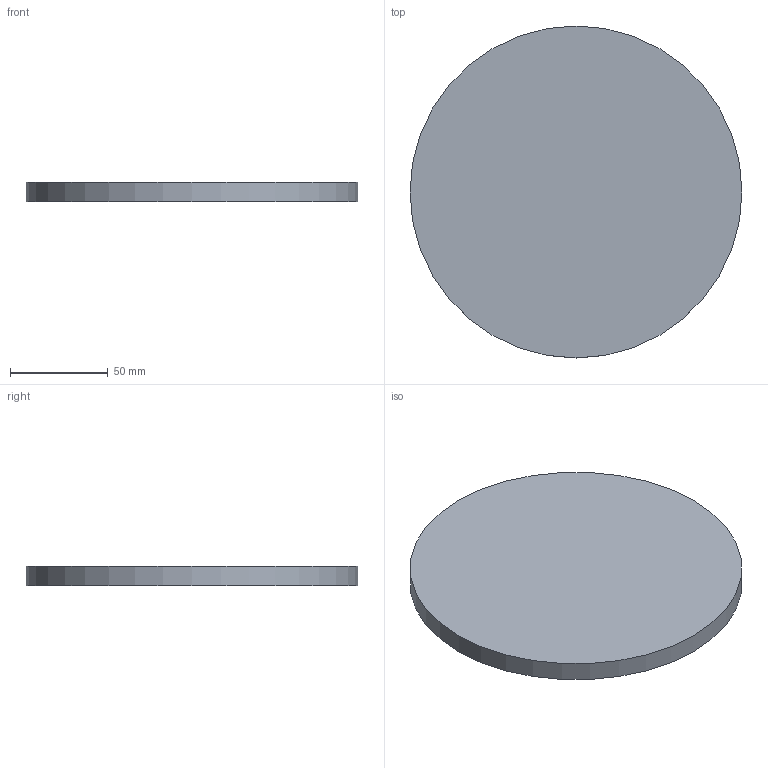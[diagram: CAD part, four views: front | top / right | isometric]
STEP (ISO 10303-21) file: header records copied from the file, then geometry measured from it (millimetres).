
FILE_DESCRIPTION( ( 'Unknown' ), '1' );
FILE_NAME( 'C:/Users/work/Documents/Solid Edge/heavy_gas_cherenkov/step/quartz_window.step', 'Unknown', ( 'Unknown' ), ( 'Unknown' ), 'PSStep 10.1', 'Unknown', ' ' );
FILE_SCHEMA( ( 'AUTOMOTIVE_DESIGN { 1 0 10303 214 1 1 1 1 }' ) );
Length unit declared in the file: millimetre
Products named in the file (1): 1
Bounding box: 170 x 170 x 10 mm (x, y, z)
Volume: 226980.1 mm3; surface area: 50736.7 mm2
Topology: 1 solids, 1 shells, 3 faces, 3 edges, 2 vertices
Faces by surface type: plane 2, cylinder 1
Full cylindrical faces by diameter (mm): 170 x1
Entity records: 94 total; most frequent: DIRECTION 12, CARTESIAN_POINT 8, AXIS2_PLACEMENT_3D 6, FACE_OUTER_BOUND 4, EDGE_LOOP 4, ORIENTED_EDGE 4, STYLED_ITEM 3, PRESENTATION_STYLE_ASSIGNMENT 3
